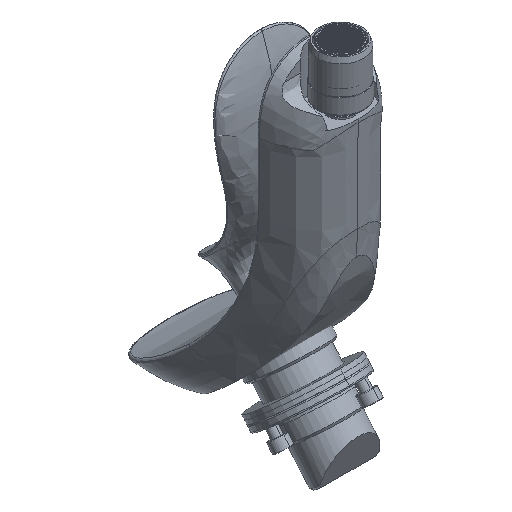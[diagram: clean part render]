
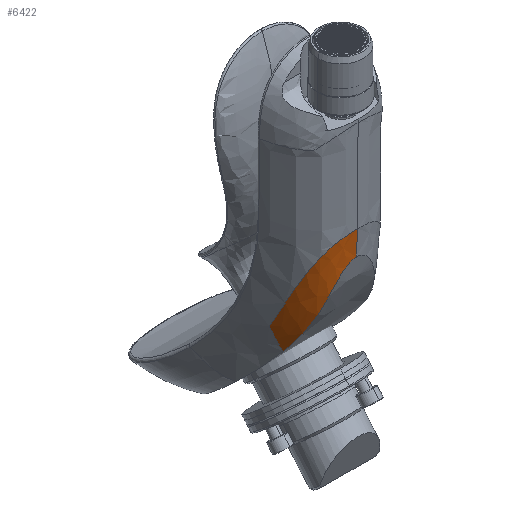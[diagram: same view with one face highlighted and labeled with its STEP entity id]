
A CAD part, isometric view. The second image highlights one B-rep face of the part: STEP entity #6422.
In plain terms, the highlighted free-form (B-spline) face has degree [3, 3] with [11, 4] control points.
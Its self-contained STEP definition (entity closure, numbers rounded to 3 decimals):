
#881=CARTESIAN_POINT('',(0.,-3.876,
62.798));
#883=CARTESIAN_POINT('',(0.,-3.876,
62.798));
#884=CARTESIAN_POINT('',(-3.122,-3.876,62.798));
#885=CARTESIAN_POINT('',(-8.334,-3.304,61.773));
#886=CARTESIAN_POINT('',(-13.643,-1.162,57.856));
#887=CARTESIAN_POINT('',(-17.126,1.761,52.321));
#888=CARTESIAN_POINT('',(-19.379,5.07,45.856));
#889=CARTESIAN_POINT('',(-20.854,8.457,39.));
#890=CARTESIAN_POINT('',(-21.864,11.771,32.247));
#891=CARTESIAN_POINT('',(-22.596,14.923,26.062));
#892=CARTESIAN_POINT('',(-22.949,16.767,22.613));
#893=CARTESIAN_POINT('',(-23.093,17.563,21.127));
#895=CARTESIAN_POINT('',(-23.093,17.563,21.127));
#896=CARTESIAN_POINT('',(-22.706,17.012,19.663));
#897=CARTESIAN_POINT('',(-21.888,16.067,16.836));
#898=CARTESIAN_POINT('',(-20.527,15.098,12.937));
#899=CARTESIAN_POINT('',(-19.548,14.739,10.61));
#900=CARTESIAN_POINT('',(-19.045,14.619,9.511));
#1343=CARTESIAN_POINT('',(-19.045,14.619,9.511));
#1344=CARTESIAN_POINT('',(-18.885,14.066,10.185));
#1345=CARTESIAN_POINT('',(-18.549,12.883,11.64));
#1346=CARTESIAN_POINT('',(-17.956,10.903,14.143));
#1347=CARTESIAN_POINT('',(-17.262,8.781,17.042));
#1348=CARTESIAN_POINT('',(-16.444,6.533,20.528));
#1349=CARTESIAN_POINT('',(-15.449,4.311,24.51));
#1350=CARTESIAN_POINT('',(-14.407,2.485,28.368));
#1351=CARTESIAN_POINT('',(-13.398,1.112,31.755));
#1352=CARTESIAN_POINT('',(-12.402,0.055,
34.776));
#1353=CARTESIAN_POINT('',(-11.413,-0.75,
37.439));
#1354=CARTESIAN_POINT('',(-10.438,-1.36,
39.771));
#1355=CARTESIAN_POINT('',(-9.473,-1.821,
41.795));
#1356=CARTESIAN_POINT('',(-8.517,-2.168,
43.538));
#1357=CARTESIAN_POINT('',(-7.57,-2.428,
45.028));
#1358=CARTESIAN_POINT('',(-6.636,-2.622,
46.282));
#1359=CARTESIAN_POINT('',(-5.718,-2.764,
47.314));
#1360=CARTESIAN_POINT('',(-4.841,-2.865,
48.13));
#1361=CARTESIAN_POINT('',(-4.244,-2.916,
48.575));
#1362=CARTESIAN_POINT('',(-3.949,-2.937,
48.773));
#1364=CARTESIAN_POINT('',(0.,-3.876,
62.798));
#1365=CARTESIAN_POINT('',(0.,-3.728,
58.536));
#1366=CARTESIAN_POINT('',(0.,-3.455,
54.278));
#1367=CARTESIAN_POINT('',(0.,-3.065,
50.032));
#1369=CARTESIAN_POINT('',(0.,-3.065,
50.032));
#1370=CARTESIAN_POINT('',(-0.442,-3.065,
50.033));
#1371=CARTESIAN_POINT('',(-1.327,-3.057,
49.947));
#1372=CARTESIAN_POINT('',(-2.644,-3.018,
49.534));
#1373=CARTESIAN_POINT('',(-3.516,-2.969,
49.062));
#1374=CARTESIAN_POINT('',(-3.949,-2.937,
48.773));
#1486=VERTEX_POINT('',#881);
#1487=VERTEX_POINT('',#893);
#1488=VERTEX_POINT('',#900);
#1504=VERTEX_POINT('',#1369);
#1505=VERTEX_POINT('',#1374);
#6369=CARTESIAN_POINT('',(-19.086,14.937,8.992));
#6370=CARTESIAN_POINT('',(-20.814,15.292,12.808));
#6371=CARTESIAN_POINT('',(-22.11,16.312,16.839));
#6372=CARTESIAN_POINT('',(-23.156,17.795,20.89));
#6373=CARTESIAN_POINT('',(-18.667,13.498,10.736));
#6374=CARTESIAN_POINT('',(-20.509,14.046,14.482));
#6375=CARTESIAN_POINT('',(-21.898,15.279,18.459));
#6376=CARTESIAN_POINT('',(-23.009,16.962,22.451));
#6377=CARTESIAN_POINT('',(-17.799,10.462,14.402));
#6378=CARTESIAN_POINT('',(-19.833,11.388,18.104));
#6379=CARTESIAN_POINT('',(-21.397,13.015,22.055));
#6380=CARTESIAN_POINT('',(-22.651,15.066,26.009));
#6381=CARTESIAN_POINT('',(-16.301,6.173,20.759));
#6382=CARTESIAN_POINT('',(-18.587,7.474,24.462));
#6383=CARTESIAN_POINT('',(-20.41,9.456,28.412));
#6384=CARTESIAN_POINT('',(-21.907,11.839,32.359));
#6385=CARTESIAN_POINT('',(-14.577,2.674,27.493));
#6386=CARTESIAN_POINT('',(-17.079,4.071,31.219));
#6387=CARTESIAN_POINT('',(-19.149,6.104,35.166));
#6388=CARTESIAN_POINT('',(-20.905,8.526,39.113));
#6389=CARTESIAN_POINT('',(-12.536,0.054,
34.249));
#6390=CARTESIAN_POINT('',(-15.153,1.253,38.034));
#6391=CARTESIAN_POINT('',(-17.423,3.008,42.001));
#6392=CARTESIAN_POINT('',(-19.437,5.13,45.969));
#6393=CARTESIAN_POINT('',(-10.121,-1.652,
40.466));
#6394=CARTESIAN_POINT('',(-12.688,-0.907,
44.369));
#6395=CARTESIAN_POINT('',(-15.02,0.285,
48.402));
#6396=CARTESIAN_POINT('',(-17.187,1.804,52.436));
#6397=CARTESIAN_POINT('',(-7.279,-2.583,
45.571));
#6398=CARTESIAN_POINT('',(-9.514,-2.366,
49.655));
#6399=CARTESIAN_POINT('',(-11.64,-1.868,
53.813));
#6400=CARTESIAN_POINT('',(-13.702,-1.141,
57.974));
#6401=CARTESIAN_POINT('',(-3.887,-2.992,
49.095));
#6402=CARTESIAN_POINT('',(-5.384,-3.245,
53.364));
#6403=CARTESIAN_POINT('',(-6.837,-3.363,
57.667));
#6404=CARTESIAN_POINT('',(-8.268,-3.347,
61.975));
#6405=CARTESIAN_POINT('',(-1.227,-3.056,
49.948));
#6406=CARTESIAN_POINT('',(-1.772,-3.466,
54.28));
#6407=CARTESIAN_POINT('',(-2.301,-3.756,
58.629));
#6408=CARTESIAN_POINT('',(-2.819,-3.914,
62.983));
#6409=CARTESIAN_POINT('',(0.252,-3.052,
49.892));
#6410=CARTESIAN_POINT('',(0.363,-3.452,
54.224));
#6411=CARTESIAN_POINT('',(0.471,-3.73,
58.568));
#6412=CARTESIAN_POINT('',(0.576,-3.877,
62.916));
#6413=B_SPLINE_SURFACE_WITH_KNOTS('',3,3,((#6369,#6370,#6371,#6372),(#6373,
#6374,#6375,#6376),(#6377,#6378,#6379,#6380),(#6381,#6382,#6383,#6384),(#6385,
#6386,#6387,#6388),(#6389,#6390,#6391,#6392),(#6393,#6394,#6395,#6396),(#6397,
#6398,#6399,#6400),(#6401,#6402,#6403,#6404),(#6405,#6406,#6407,#6408),(#6409,
#6410,#6411,#6412)),.UNSPECIFIED.,.F.,.F.,.F.,(4,1,1,1,1,1,1,1,4),(4,4),(
-0.01,0.125,0.25,0.375,0.5,0.625,0.75,0.875,
1.008),(-0.011,1.01),.UNSPECIFIED.);
#6415=ORIENTED_EDGE('',*,*,#6414,.T.);
#6416=ORIENTED_EDGE('',*,*,#6354,.T.);
#6417=ORIENTED_EDGE('',*,*,#6364,.F.);
#6418=ORIENTED_EDGE('',*,*,#4907,.F.);
#6419=ORIENTED_EDGE('',*,*,#4905,.F.);
#6420=EDGE_LOOP('',(#6415,#6416,#6417,#6418,#6419));
#6421=FACE_OUTER_BOUND('',#6420,.F.);
#6422=ADVANCED_FACE('',(#6421),#6413,.T.);
#894=B_SPLINE_CURVE_WITH_KNOTS('',3,(#883,#884,#885,#886,#887,#888,#889,#890,
#891,#892,#893),.UNSPECIFIED.,.F.,.F.,(4,1,1,1,1,1,1,1,4),(0.,
0.125,0.25,0.375,0.5,
0.625,0.75,0.875,1.),.UNSPECIFIED.);
#901=B_SPLINE_CURVE_WITH_KNOTS('',3,(#895,#896,#897,#898,#899,#900),
.UNSPECIFIED.,.F.,.F.,(4,1,1,4),(0.,0.333,0.667,1.),
.UNSPECIFIED.);
#1363=B_SPLINE_CURVE_WITH_KNOTS('',3,(#1343,#1344,#1345,#1346,#1347,#1348,#1349,
#1350,#1351,#1352,#1353,#1354,#1355,#1356,#1357,#1358,#1359,#1360,#1361,#1362),
.UNSPECIFIED.,.F.,.F.,(4,1,1,1,1,1,1,1,1,1,1,1,1,1,1,1,1,4),(0.,
0.059,0.118,0.176,0.235,
0.294,0.353,0.412,0.471,
0.529,0.588,0.647,0.706,
0.765,0.824,0.882,0.941,1.),
.UNSPECIFIED.);
#1368=B_SPLINE_CURVE_WITH_KNOTS('',3,(#1364,#1365,#1366,#1367),.UNSPECIFIED.,
.F.,.F.,(4,4),(0.,1.),.UNSPECIFIED.);
#1375=B_SPLINE_CURVE_WITH_KNOTS('',3,(#1369,#1370,#1371,#1372,#1373,#1374),
.UNSPECIFIED.,.F.,.F.,(4,1,1,4),(0.,0.333,0.667,1.),
.UNSPECIFIED.);
#4905=EDGE_CURVE('',#1486,#1487,#894,.T.);
#4907=EDGE_CURVE('',#1487,#1488,#901,.T.);
#6354=EDGE_CURVE('',#1504,#1505,#1375,.T.);
#6364=EDGE_CURVE('',#1488,#1505,#1363,.T.);
#6414=EDGE_CURVE('',#1486,#1504,#1368,.T.);
